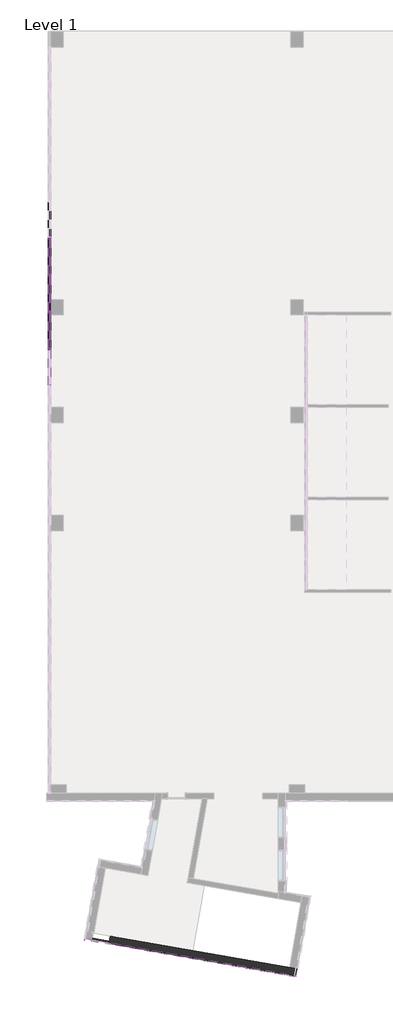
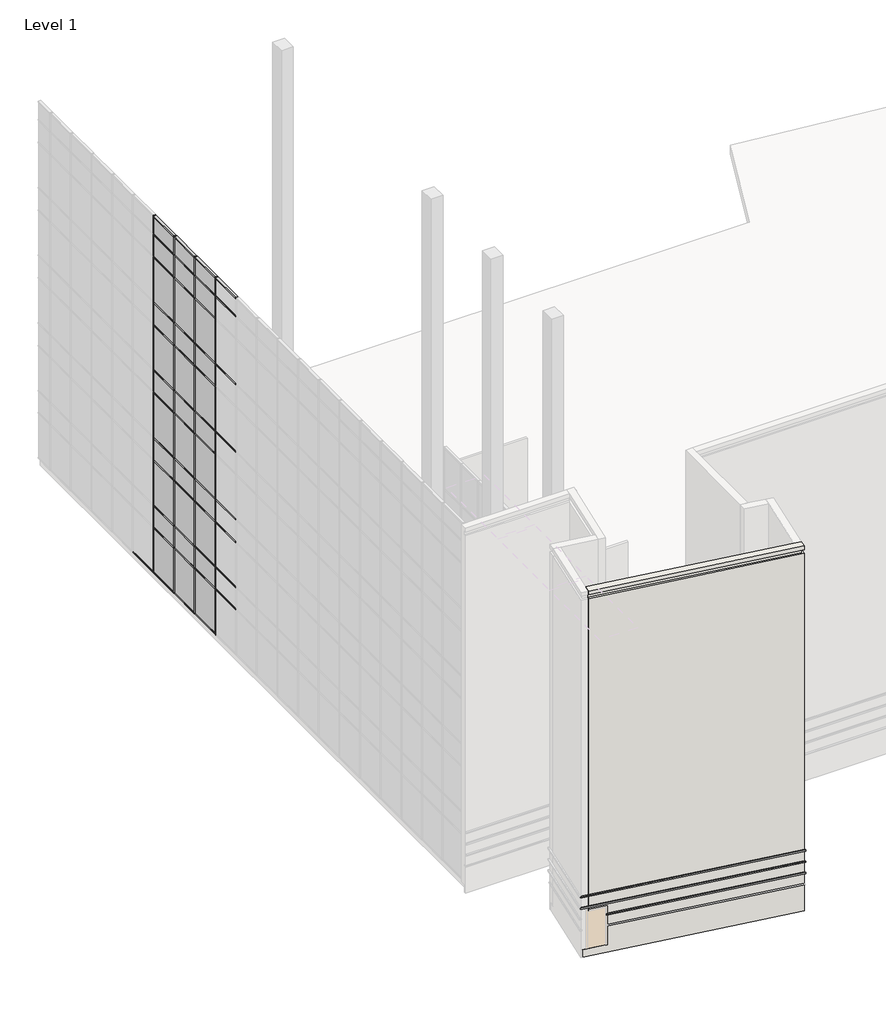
# One storey, part 4 of 23: 69 members, 33 plates, 3 proxies, 1 wall.
"""IFC4 building model written with IfcOpenShell, lengths in millimetres."""

from ifc_helpers import new_model, si_unit, frame, origin, place, context, project, spatial, polyline, outline, extrude, faceted_brep, transform, mapped, element, save
from components import member_f92b8aa2, member_810865a4, member_6d5c3e5e, member_9764dd38, system_panel_glazed_14c75400, system_panel_solid_5dfe6f83, system_panel_solid_e25e2004, system_panel_solid_b7551183

model = new_model("IFC4")

# Units and contexts
model_context = context("Model", 3, world=origin())
ifc_project = project(units=[si_unit("LENGTHUNIT", "METRE", prefix="MILLI")], contexts=[model_context])

# Site, building, storey
site = spatial("IfcSite", under=ifc_project)
building = spatial("IfcBuilding", under=site)
storey = spatial("IfcBuildingStorey", under=building, Name="Level 1", Elevation=0.0)

# Proxies
placement = place(None, origin())
element("IfcBuildingElementProxy", 1, Name="Reveals", at=placement, inside=storey, context=model_context, shape_type="SweptSolid", body=[
    extrude(outline(polyline([(-65796.5031372, -35188.4340603), (-65780.5144812, -35097.7578865), (-56600.3335692, -36716.4714691), (-56525.6460513, -36823.1362989), (-65796.5031372, -35188.4340603)])), frame((0.0, 0.0, 1625.6), z_axis=(0.0, 0.0, 1.0), x_axis=(1.0, 0.0, 0.0)), (0.0, 0.0, 1.0), 67.7333333),
])
element("IfcBuildingElementProxy", 2, Name="Reveals", at=placement, inside=storey, context=model_context, shape_type="SweptSolid", body=[
    extrude(outline(polyline([(-67022.1948666, -34972.3115384), (-66915.5300368, -34897.6240205), (-56600.3335692, -36716.4714691), (-56525.6460513, -36823.1362989), (-67022.1948666, -34972.3115384)])), frame((0.0, 0.0, 2235.2), z_axis=(0.0, 0.0, 1.0), x_axis=(1.0, 0.0, 0.0)), (0.0, 0.0, 1.0), 67.7333333),
])
element("IfcBuildingElementProxy", 3, Name="Reveals", at=placement, inside=storey, context=model_context, shape_type="SweptSolid", body=[
    extrude(outline(polyline([(-67022.1948666, -34972.3115384), (-66915.5300368, -34897.6240205), (-56600.3335692, -36716.4714691), (-56525.6460513, -36823.1362989), (-67022.1948666, -34972.3115384)])), frame((0.0, 0.0, 2844.8), z_axis=(0.0, 0.0, 1.0), x_axis=(1.0, 0.0, 0.0)), (0.0, 0.0, 1.0), 67.7333333),
])

# Members
member_shape = member_f92b8aa2(model_context)
element("IfcMember", 4, ObjectType="Rectangular Mullion : 2.5\" x 5\" rectangular", at=placement, inside=storey, context=model_context, shape_type="MappedRepresentation", body=[
    mapped(member_shape, transform((-68724.2599961, -5768.3103492, 18288.0), x_axis=(0.0, 1.0, 0.0), y_axis=(1.0, 0.0, 0.0), z_axis=(0.0, 0.0, -1.0))),
])
element("IfcMember", 5, ObjectType="Rectangular Mullion : 2.5\" x 5\" rectangular", at=placement, inside=storey, context=model_context, shape_type="MappedRepresentation", body=[
    mapped(member_shape, transform((-68724.2599961, -3939.5103492, 18288.0), x_axis=(0.0, 1.0, 0.0), y_axis=(1.0, 0.0, 0.0), z_axis=(0.0, 0.0, -1.0))),
])
element("IfcMember", 6, ObjectType="Rectangular Mullion : 2.5\" x 5\" rectangular", at=placement, inside=storey, context=model_context, shape_type="MappedRepresentation", body=[
    mapped(member_shape, transform((-68724.2599961, -2110.7103492, 18288.0), x_axis=(0.0, 1.0, 0.0), y_axis=(1.0, 0.0, 0.0), z_axis=(0.0, 0.0, -1.0))),
])
element("IfcMember", 7, ObjectType="Rectangular Mullion : 2.5\" x 5\" rectangular", at=placement, inside=storey, context=model_context, shape_type="MappedRepresentation", body=[
    mapped(member_shape, transform((-68724.2599961, -281.9103492, 18288.0), x_axis=(0.0, 1.0, 0.0), y_axis=(1.0, 0.0, 0.0), z_axis=(0.0, 0.0, -1.0))),
])
member_2_shape = member_810865a4(model_context)
element("IfcMember", 8, ObjectType="Rectangular Mullion : 2.5\" x 5\" rectangular", at=placement, inside=storey, context=model_context, shape_type="MappedRepresentation", body=[
    mapped(member_2_shape, transform((-68724.2599961, -5768.3103492, 3657.6), x_axis=(0.0, 1.0, 0.0), y_axis=(1.0, 0.0, 0.0), z_axis=(0.0, 0.0, -1.0))),
])
element("IfcMember", 9, ObjectType="Rectangular Mullion : 2.5\" x 5\" rectangular", at=placement, inside=storey, context=model_context, shape_type="MappedRepresentation", body=[
    mapped(member_2_shape, transform((-68724.2599961, -3939.5103492, 3657.6), x_axis=(0.0, 1.0, 0.0), y_axis=(1.0, 0.0, 0.0), z_axis=(0.0, 0.0, -1.0))),
])
element("IfcMember", 10, ObjectType="Rectangular Mullion : 2.5\" x 5\" rectangular", at=placement, inside=storey, context=model_context, shape_type="MappedRepresentation", body=[
    mapped(member_2_shape, transform((-68724.2599961, -2110.7103492, 3657.6), x_axis=(0.0, 1.0, 0.0), y_axis=(1.0, 0.0, 0.0), z_axis=(0.0, 0.0, -1.0))),
])
element("IfcMember", 11, ObjectType="Rectangular Mullion : 2.5\" x 5\" rectangular", at=placement, inside=storey, context=model_context, shape_type="MappedRepresentation", body=[
    mapped(member_2_shape, transform((-68724.2599961, -281.9103492, 3657.6), x_axis=(0.0, 1.0, 0.0), y_axis=(1.0, 0.0, 0.0), z_axis=(0.0, 0.0, -1.0))),
])
element("IfcMember", 12, ObjectType="Rectangular Mullion : 2.5\" x 5\" rectangular", at=placement, inside=storey, context=model_context, shape_type="MappedRepresentation", body=[
    mapped(member_2_shape, transform((-68724.2599961, -5768.3103492, 7315.2), x_axis=(0.0, 1.0, 0.0), y_axis=(1.0, 0.0, 0.0), z_axis=(0.0, 0.0, -1.0))),
])
element("IfcMember", 13, ObjectType="Rectangular Mullion : 2.5\" x 5\" rectangular", at=placement, inside=storey, context=model_context, shape_type="MappedRepresentation", body=[
    mapped(member_2_shape, transform((-68724.2599961, -3939.5103492, 7315.2), x_axis=(0.0, 1.0, 0.0), y_axis=(1.0, 0.0, 0.0), z_axis=(0.0, 0.0, -1.0))),
])
element("IfcMember", 14, ObjectType="Rectangular Mullion : 2.5\" x 5\" rectangular", at=placement, inside=storey, context=model_context, shape_type="MappedRepresentation", body=[
    mapped(member_2_shape, transform((-68724.2599961, -2110.7103492, 7315.2), x_axis=(0.0, 1.0, 0.0), y_axis=(1.0, 0.0, 0.0), z_axis=(0.0, 0.0, -1.0))),
])
element("IfcMember", 15, ObjectType="Rectangular Mullion : 2.5\" x 5\" rectangular", at=placement, inside=storey, context=model_context, shape_type="MappedRepresentation", body=[
    mapped(member_2_shape, transform((-68724.2599961, -281.9103492, 7315.2), x_axis=(0.0, 1.0, 0.0), y_axis=(1.0, 0.0, 0.0), z_axis=(0.0, 0.0, -1.0))),
])
element("IfcMember", 16, ObjectType="Rectangular Mullion : 2.5\" x 5\" rectangular", at=placement, inside=storey, context=model_context, shape_type="MappedRepresentation", body=[
    mapped(member_2_shape, transform((-68724.2599961, -5768.3103492, 10972.8), x_axis=(0.0, 1.0, 0.0), y_axis=(1.0, 0.0, 0.0), z_axis=(0.0, 0.0, -1.0))),
])
element("IfcMember", 17, ObjectType="Rectangular Mullion : 2.5\" x 5\" rectangular", at=placement, inside=storey, context=model_context, shape_type="MappedRepresentation", body=[
    mapped(member_2_shape, transform((-68724.2599961, -3939.5103492, 10972.8), x_axis=(0.0, 1.0, 0.0), y_axis=(1.0, 0.0, 0.0), z_axis=(0.0, 0.0, -1.0))),
])
element("IfcMember", 18, ObjectType="Rectangular Mullion : 2.5\" x 5\" rectangular", at=placement, inside=storey, context=model_context, shape_type="MappedRepresentation", body=[
    mapped(member_2_shape, transform((-68724.2599961, -2110.7103492, 10972.8), x_axis=(0.0, 1.0, 0.0), y_axis=(1.0, 0.0, 0.0), z_axis=(0.0, 0.0, -1.0))),
])
element("IfcMember", 19, ObjectType="Rectangular Mullion : 2.5\" x 5\" rectangular", at=placement, inside=storey, context=model_context, shape_type="MappedRepresentation", body=[
    mapped(member_2_shape, transform((-68724.2599961, -281.9103492, 10972.8), x_axis=(0.0, 1.0, 0.0), y_axis=(1.0, 0.0, 0.0), z_axis=(0.0, 0.0, -1.0))),
])
element("IfcMember", 20, ObjectType="Rectangular Mullion : 2.5\" x 5\" rectangular", at=placement, inside=storey, context=model_context, shape_type="MappedRepresentation", body=[
    mapped(member_2_shape, transform((-68724.2599961, -5768.3103492, 14630.4), x_axis=(0.0, 1.0, 0.0), y_axis=(1.0, 0.0, 0.0), z_axis=(0.0, 0.0, -1.0))),
])
element("IfcMember", 21, ObjectType="Rectangular Mullion : 2.5\" x 5\" rectangular", at=placement, inside=storey, context=model_context, shape_type="MappedRepresentation", body=[
    mapped(member_2_shape, transform((-68724.2599961, -3939.5103492, 14630.4), x_axis=(0.0, 1.0, 0.0), y_axis=(1.0, 0.0, 0.0), z_axis=(0.0, 0.0, -1.0))),
])
element("IfcMember", 22, ObjectType="Rectangular Mullion : 2.5\" x 5\" rectangular", at=placement, inside=storey, context=model_context, shape_type="MappedRepresentation", body=[
    mapped(member_2_shape, transform((-68724.2599961, -2110.7103492, 14630.4), x_axis=(0.0, 1.0, 0.0), y_axis=(1.0, 0.0, 0.0), z_axis=(0.0, 0.0, -1.0))),
])
element("IfcMember", 23, ObjectType="Rectangular Mullion : 2.5\" x 5\" rectangular", at=placement, inside=storey, context=model_context, shape_type="MappedRepresentation", body=[
    mapped(member_2_shape, transform((-68724.2599961, -281.9103492, 14630.4), x_axis=(0.0, 1.0, 0.0), y_axis=(1.0, 0.0, 0.0), z_axis=(0.0, 0.0, -1.0))),
])
member_3_shape = member_6d5c3e5e(model_context)
element("IfcMember", 24, ObjectType="Rectangular Mullion : 2.5\" x 5\" rectangular", at=placement, inside=storey, context=model_context, shape_type="MappedRepresentation", body=[
    mapped(member_3_shape, transform((-68724.2599961, -5800.0603492, 19304.0), x_axis=(0.0, 0.0, 1.0), y_axis=(1.0, 0.0, 0.0), z_axis=(0.0, 1.0, 0.0))),
])
element("IfcMember", 25, ObjectType="Rectangular Mullion : 2.5\" x 5\" rectangular", at=placement, inside=storey, context=model_context, shape_type="MappedRepresentation", body=[
    mapped(member_3_shape, transform((-68724.2599961, -3971.2603492, 19304.0), x_axis=(0.0, 0.0, 1.0), y_axis=(1.0, 0.0, 0.0), z_axis=(0.0, 1.0, 0.0))),
])
element("IfcMember", 26, ObjectType="Rectangular Mullion : 2.5\" x 5\" rectangular", at=placement, inside=storey, context=model_context, shape_type="MappedRepresentation", body=[
    mapped(member_3_shape, transform((-68724.2599961, -2142.4603492, 19304.0), x_axis=(0.0, 0.0, 1.0), y_axis=(1.0, 0.0, 0.0), z_axis=(0.0, 1.0, 0.0))),
])
element("IfcMember", 27, ObjectType="Rectangular Mullion : 2.5\" x 5\" rectangular", at=placement, inside=storey, context=model_context, shape_type="MappedRepresentation", body=[
    mapped(member_3_shape, transform((-68724.2599961, -313.6603492, 19304.0), x_axis=(0.0, 0.0, 1.0), y_axis=(1.0, 0.0, 0.0), z_axis=(0.0, 1.0, 0.0))),
])
member_4_shape = member_9764dd38(model_context)
element("IfcMember", 28, ObjectType="Rectangular Mullion : 2.5\" x 5\" rectangular", at=placement, inside=storey, context=model_context, shape_type="MappedRepresentation", body=[
    mapped(member_4_shape, transform((-68724.2599961, -313.6603492, 17068.8), x_axis=(0.0, 0.0, 1.0), y_axis=(1.0, 0.0, 0.0), z_axis=(0.0, 1.0, 0.0))),
])
element("IfcMember", 29, ObjectType="Rectangular Mullion : 2.5\" x 5\" rectangular", at=placement, inside=storey, context=model_context, shape_type="MappedRepresentation", body=[
    mapped(member_4_shape, transform((-68724.2599961, -2142.4603492, 17068.8), x_axis=(0.0, 0.0, 1.0), y_axis=(1.0, 0.0, 0.0), z_axis=(0.0, 1.0, 0.0))),
])
element("IfcMember", 30, ObjectType="Rectangular Mullion : 2.5\" x 5\" rectangular", at=placement, inside=storey, context=model_context, shape_type="MappedRepresentation", body=[
    mapped(member_4_shape, transform((-68724.2599961, -3971.2603492, 17068.8), x_axis=(0.0, 0.0, 1.0), y_axis=(1.0, 0.0, 0.0), z_axis=(0.0, 1.0, 0.0))),
])
element("IfcMember", 31, ObjectType="Rectangular Mullion : 2.5\" x 5\" rectangular", at=placement, inside=storey, context=model_context, shape_type="MappedRepresentation", body=[
    mapped(member_4_shape, transform((-68724.2599961, -313.6603492, 13411.2), x_axis=(0.0, 0.0, 1.0), y_axis=(1.0, 0.0, 0.0), z_axis=(0.0, 1.0, 0.0))),
])
element("IfcMember", 32, ObjectType="Rectangular Mullion : 2.5\" x 5\" rectangular", at=placement, inside=storey, context=model_context, shape_type="MappedRepresentation", body=[
    mapped(member_4_shape, transform((-68724.2599961, -2142.4603492, 13411.2), x_axis=(0.0, 0.0, 1.0), y_axis=(1.0, 0.0, 0.0), z_axis=(0.0, 1.0, 0.0))),
])
element("IfcMember", 33, ObjectType="Rectangular Mullion : 2.5\" x 5\" rectangular", at=placement, inside=storey, context=model_context, shape_type="MappedRepresentation", body=[
    mapped(member_4_shape, transform((-68724.2599961, -3971.2603492, 13411.2), x_axis=(0.0, 0.0, 1.0), y_axis=(1.0, 0.0, 0.0), z_axis=(0.0, 1.0, 0.0))),
])
element("IfcMember", 34, ObjectType="Rectangular Mullion : 2.5\" x 5\" rectangular", at=placement, inside=storey, context=model_context, shape_type="MappedRepresentation", body=[
    mapped(member_4_shape, transform((-68724.2599961, -313.6603492, 9753.6), x_axis=(0.0, 0.0, 1.0), y_axis=(1.0, 0.0, 0.0), z_axis=(0.0, 1.0, 0.0))),
])
element("IfcMember", 35, ObjectType="Rectangular Mullion : 2.5\" x 5\" rectangular", at=placement, inside=storey, context=model_context, shape_type="MappedRepresentation", body=[
    mapped(member_4_shape, transform((-68724.2599961, -2142.4603492, 9753.6), x_axis=(0.0, 0.0, 1.0), y_axis=(1.0, 0.0, 0.0), z_axis=(0.0, 1.0, 0.0))),
])
element("IfcMember", 36, ObjectType="Rectangular Mullion : 2.5\" x 5\" rectangular", at=placement, inside=storey, context=model_context, shape_type="MappedRepresentation", body=[
    mapped(member_4_shape, transform((-68724.2599961, -3971.2603492, 9753.6), x_axis=(0.0, 0.0, 1.0), y_axis=(1.0, 0.0, 0.0), z_axis=(0.0, 1.0, 0.0))),
])
element("IfcMember", 37, ObjectType="Rectangular Mullion : 2.5\" x 5\" rectangular", at=placement, inside=storey, context=model_context, shape_type="MappedRepresentation", body=[
    mapped(member_4_shape, transform((-68724.2599961, -313.6603492, 6096.0), x_axis=(0.0, 0.0, 1.0), y_axis=(1.0, 0.0, 0.0), z_axis=(0.0, 1.0, 0.0))),
])
element("IfcMember", 38, ObjectType="Rectangular Mullion : 2.5\" x 5\" rectangular", at=placement, inside=storey, context=model_context, shape_type="MappedRepresentation", body=[
    mapped(member_4_shape, transform((-68724.2599961, -2142.4603492, 6096.0), x_axis=(0.0, 0.0, 1.0), y_axis=(1.0, 0.0, 0.0), z_axis=(0.0, 1.0, 0.0))),
])
element("IfcMember", 39, ObjectType="Rectangular Mullion : 2.5\" x 5\" rectangular", at=placement, inside=storey, context=model_context, shape_type="MappedRepresentation", body=[
    mapped(member_4_shape, transform((-68724.2599961, -3971.2603492, 6096.0), x_axis=(0.0, 0.0, 1.0), y_axis=(1.0, 0.0, 0.0), z_axis=(0.0, 1.0, 0.0))),
])
element("IfcMember", 40, ObjectType="Rectangular Mullion : 2.5\" x 5\" rectangular", at=placement, inside=storey, context=model_context, shape_type="MappedRepresentation", body=[
    mapped(member_4_shape, transform((-68724.2599961, -5800.0603492, 6096.0), x_axis=(0.0, 0.0, 1.0), y_axis=(1.0, 0.0, 0.0), z_axis=(0.0, 1.0, 0.0))),
])
element("IfcMember", 41, ObjectType="Rectangular Mullion : 2.5\" x 5\" rectangular", at=placement, inside=storey, context=model_context, shape_type="MappedRepresentation", body=[
    mapped(member_4_shape, transform((-68724.2599961, -313.6603492, 2470.15), x_axis=(0.0, 0.0, 1.0), y_axis=(1.0, 0.0, 0.0), z_axis=(0.0, 1.0, 0.0))),
])
element("IfcMember", 42, ObjectType="Rectangular Mullion : 2.5\" x 5\" rectangular", at=placement, inside=storey, context=model_context, shape_type="MappedRepresentation", body=[
    mapped(member_4_shape, transform((-68724.2599961, -2142.4603492, 2470.15), x_axis=(0.0, 0.0, 1.0), y_axis=(1.0, 0.0, 0.0), z_axis=(0.0, 1.0, 0.0))),
])
element("IfcMember", 43, ObjectType="Rectangular Mullion : 2.5\" x 5\" rectangular", at=placement, inside=storey, context=model_context, shape_type="MappedRepresentation", body=[
    mapped(member_4_shape, transform((-68724.2599961, -3971.2603492, 2470.15), x_axis=(0.0, 0.0, 1.0), y_axis=(1.0, 0.0, 0.0), z_axis=(0.0, 1.0, 0.0))),
])
element("IfcMember", 44, ObjectType="Rectangular Mullion : 2.5\" x 5\" rectangular", at=placement, inside=storey, context=model_context, shape_type="MappedRepresentation", body=[
    mapped(member_4_shape, transform((-68724.2599961, -5800.0603492, 2470.15), x_axis=(0.0, 0.0, 1.0), y_axis=(1.0, 0.0, 0.0), z_axis=(0.0, 1.0, 0.0))),
])
element("IfcMember", 45, ObjectType="Rectangular Mullion : 2.5\" x 5\" rectangular", at=placement, inside=storey, context=model_context, shape_type="MappedRepresentation", body=[
    mapped(member_2_shape, transform((-68724.2599961, -5768.3103492, 0.0), x_axis=(0.0, 1.0, 0.0), y_axis=(1.0, 0.0, 0.0), z_axis=(0.0, 0.0, -1.0))),
])
element("IfcMember", 46, ObjectType="Rectangular Mullion : 2.5\" x 5\" rectangular", at=placement, inside=storey, context=model_context, shape_type="MappedRepresentation", body=[
    mapped(member_2_shape, transform((-68724.2599961, -3939.5103492, 0.0), x_axis=(0.0, 1.0, 0.0), y_axis=(1.0, 0.0, 0.0), z_axis=(0.0, 0.0, -1.0))),
])
element("IfcMember", 47, ObjectType="Rectangular Mullion : 2.5\" x 5\" rectangular", at=placement, inside=storey, context=model_context, shape_type="MappedRepresentation", body=[
    mapped(member_2_shape, transform((-68724.2599961, -2110.7103492, 0.0), x_axis=(0.0, 1.0, 0.0), y_axis=(1.0, 0.0, 0.0), z_axis=(0.0, 0.0, -1.0))),
])
element("IfcMember", 48, ObjectType="Rectangular Mullion : 2.5\" x 5\" rectangular", at=placement, inside=storey, context=model_context, shape_type="MappedRepresentation", body=[
    mapped(member_2_shape, transform((-68724.2599961, -281.9103492, 0.0), x_axis=(0.0, 1.0, 0.0), y_axis=(1.0, 0.0, 0.0), z_axis=(0.0, 0.0, -1.0))),
])
element("IfcMember", 49, ObjectType="Rectangular Mullion : 2.5\" x 5\" rectangular", at=placement, inside=storey, context=model_context, shape_type="MappedRepresentation", body=[
    mapped(member_3_shape, transform((-68724.2599961, -5736.5603492, 0.0), x_axis=(0.0, 0.0, -1.0), y_axis=(1.0, 0.0, 0.0), z_axis=(0.0, -1.0, 0.0))),
])
element("IfcMember", 50, ObjectType="Rectangular Mullion : 2.5\" x 5\" rectangular", at=placement, inside=storey, context=model_context, shape_type="MappedRepresentation", body=[
    mapped(member_3_shape, transform((-68724.2599961, -3907.7603492, 0.0), x_axis=(0.0, 0.0, -1.0), y_axis=(1.0, 0.0, 0.0), z_axis=(0.0, -1.0, 0.0))),
])
element("IfcMember", 51, ObjectType="Rectangular Mullion : 2.5\" x 5\" rectangular", at=placement, inside=storey, context=model_context, shape_type="MappedRepresentation", body=[
    mapped(member_3_shape, transform((-68724.2599961, -2078.9603492, 0.0), x_axis=(0.0, 0.0, -1.0), y_axis=(1.0, 0.0, 0.0), z_axis=(0.0, -1.0, 0.0))),
])
element("IfcMember", 52, ObjectType="Rectangular Mullion : 2.5\" x 5\" rectangular", at=placement, inside=storey, context=model_context, shape_type="MappedRepresentation", body=[
    mapped(member_3_shape, transform((-68724.2599961, -250.1603492, 0.0), x_axis=(0.0, 0.0, -1.0), y_axis=(1.0, 0.0, 0.0), z_axis=(0.0, -1.0, 0.0))),
])
element("IfcMember", 53, ObjectType="Rectangular Mullion : 2.5\" x 5\" rectangular", at=placement, inside=storey, context=model_context, shape_type="MappedRepresentation", body=[
    mapped(member_4_shape, transform((-68724.2599961, -5800.0603492, 3657.6), x_axis=(0.0, 0.0, 1.0), y_axis=(1.0, 0.0, 0.0), z_axis=(0.0, 1.0, 0.0))),
])
element("IfcMember", 54, ObjectType="Rectangular Mullion : 2.5\" x 5\" rectangular", at=placement, inside=storey, context=model_context, shape_type="MappedRepresentation", body=[
    mapped(member_4_shape, transform((-68724.2599961, -3971.2603492, 3657.6), x_axis=(0.0, 0.0, 1.0), y_axis=(1.0, 0.0, 0.0), z_axis=(0.0, 1.0, 0.0))),
])
element("IfcMember", 55, ObjectType="Rectangular Mullion : 2.5\" x 5\" rectangular", at=placement, inside=storey, context=model_context, shape_type="MappedRepresentation", body=[
    mapped(member_4_shape, transform((-68724.2599961, -2142.4603492, 3657.6), x_axis=(0.0, 0.0, 1.0), y_axis=(1.0, 0.0, 0.0), z_axis=(0.0, 1.0, 0.0))),
])
element("IfcMember", 56, ObjectType="Rectangular Mullion : 2.5\" x 5\" rectangular", at=placement, inside=storey, context=model_context, shape_type="MappedRepresentation", body=[
    mapped(member_4_shape, transform((-68724.2599961, -313.6603492, 3657.6), x_axis=(0.0, 0.0, 1.0), y_axis=(1.0, 0.0, 0.0), z_axis=(0.0, 1.0, 0.0))),
])
element("IfcMember", 57, ObjectType="Rectangular Mullion : 2.5\" x 5\" rectangular", at=placement, inside=storey, context=model_context, shape_type="MappedRepresentation", body=[
    mapped(member_4_shape, transform((-68724.2599961, -5800.0603492, 7315.2), x_axis=(0.0, 0.0, 1.0), y_axis=(1.0, 0.0, 0.0), z_axis=(0.0, 1.0, 0.0))),
])
element("IfcMember", 58, ObjectType="Rectangular Mullion : 2.5\" x 5\" rectangular", at=placement, inside=storey, context=model_context, shape_type="MappedRepresentation", body=[
    mapped(member_4_shape, transform((-68724.2599961, -3971.2603492, 7315.2), x_axis=(0.0, 0.0, 1.0), y_axis=(1.0, 0.0, 0.0), z_axis=(0.0, 1.0, 0.0))),
])
element("IfcMember", 59, ObjectType="Rectangular Mullion : 2.5\" x 5\" rectangular", at=placement, inside=storey, context=model_context, shape_type="MappedRepresentation", body=[
    mapped(member_4_shape, transform((-68724.2599961, -2142.4603492, 7315.2), x_axis=(0.0, 0.0, 1.0), y_axis=(1.0, 0.0, 0.0), z_axis=(0.0, 1.0, 0.0))),
])
element("IfcMember", 60, ObjectType="Rectangular Mullion : 2.5\" x 5\" rectangular", at=placement, inside=storey, context=model_context, shape_type="MappedRepresentation", body=[
    mapped(member_4_shape, transform((-68724.2599961, -313.6603492, 7315.2), x_axis=(0.0, 0.0, 1.0), y_axis=(1.0, 0.0, 0.0), z_axis=(0.0, 1.0, 0.0))),
])
element("IfcMember", 61, ObjectType="Rectangular Mullion : 2.5\" x 5\" rectangular", at=placement, inside=storey, context=model_context, shape_type="MappedRepresentation", body=[
    mapped(member_4_shape, transform((-68724.2599961, -5800.0603492, 10972.8), x_axis=(0.0, 0.0, 1.0), y_axis=(1.0, 0.0, 0.0), z_axis=(0.0, 1.0, 0.0))),
])
element("IfcMember", 62, ObjectType="Rectangular Mullion : 2.5\" x 5\" rectangular", at=placement, inside=storey, context=model_context, shape_type="MappedRepresentation", body=[
    mapped(member_4_shape, transform((-68724.2599961, -3971.2603492, 10972.8), x_axis=(0.0, 0.0, 1.0), y_axis=(1.0, 0.0, 0.0), z_axis=(0.0, 1.0, 0.0))),
])
element("IfcMember", 63, ObjectType="Rectangular Mullion : 2.5\" x 5\" rectangular", at=placement, inside=storey, context=model_context, shape_type="MappedRepresentation", body=[
    mapped(member_4_shape, transform((-68724.2599961, -2142.4603492, 10972.8), x_axis=(0.0, 0.0, 1.0), y_axis=(1.0, 0.0, 0.0), z_axis=(0.0, 1.0, 0.0))),
])
element("IfcMember", 64, ObjectType="Rectangular Mullion : 2.5\" x 5\" rectangular", at=placement, inside=storey, context=model_context, shape_type="MappedRepresentation", body=[
    mapped(member_4_shape, transform((-68724.2599961, -313.6603492, 10972.8), x_axis=(0.0, 0.0, 1.0), y_axis=(1.0, 0.0, 0.0), z_axis=(0.0, 1.0, 0.0))),
])
element("IfcMember", 65, ObjectType="Rectangular Mullion : 2.5\" x 5\" rectangular", at=placement, inside=storey, context=model_context, shape_type="MappedRepresentation", body=[
    mapped(member_4_shape, transform((-68724.2599961, -5800.0603492, 14630.4), x_axis=(0.0, 0.0, 1.0), y_axis=(1.0, 0.0, 0.0), z_axis=(0.0, 1.0, 0.0))),
])
element("IfcMember", 66, ObjectType="Rectangular Mullion : 2.5\" x 5\" rectangular", at=placement, inside=storey, context=model_context, shape_type="MappedRepresentation", body=[
    mapped(member_4_shape, transform((-68724.2599961, -3971.2603492, 14630.4), x_axis=(0.0, 0.0, 1.0), y_axis=(1.0, 0.0, 0.0), z_axis=(0.0, 1.0, 0.0))),
])
element("IfcMember", 67, ObjectType="Rectangular Mullion : 2.5\" x 5\" rectangular", at=placement, inside=storey, context=model_context, shape_type="MappedRepresentation", body=[
    mapped(member_4_shape, transform((-68724.2599961, -2142.4603492, 14630.4), x_axis=(0.0, 0.0, 1.0), y_axis=(1.0, 0.0, 0.0), z_axis=(0.0, 1.0, 0.0))),
])
element("IfcMember", 68, ObjectType="Rectangular Mullion : 2.5\" x 5\" rectangular", at=placement, inside=storey, context=model_context, shape_type="MappedRepresentation", body=[
    mapped(member_4_shape, transform((-68724.2599961, -313.6603492, 14630.4), x_axis=(0.0, 0.0, 1.0), y_axis=(1.0, 0.0, 0.0), z_axis=(0.0, 1.0, 0.0))),
])
element("IfcMember", 69, ObjectType="Rectangular Mullion : 2.5\" x 5\" rectangular", at=placement, inside=storey, context=model_context, shape_type="MappedRepresentation", body=[
    mapped(member_4_shape, transform((-68724.2599961, -5800.0603492, 18288.0), x_axis=(0.0, 0.0, 1.0), y_axis=(1.0, 0.0, 0.0), z_axis=(0.0, 1.0, 0.0))),
])
element("IfcMember", 70, ObjectType="Rectangular Mullion : 2.5\" x 5\" rectangular", at=placement, inside=storey, context=model_context, shape_type="MappedRepresentation", body=[
    mapped(member_4_shape, transform((-68724.2599961, -3971.2603492, 18288.0), x_axis=(0.0, 0.0, 1.0), y_axis=(1.0, 0.0, 0.0), z_axis=(0.0, 1.0, 0.0))),
])
element("IfcMember", 71, ObjectType="Rectangular Mullion : 2.5\" x 5\" rectangular", at=placement, inside=storey, context=model_context, shape_type="MappedRepresentation", body=[
    mapped(member_4_shape, transform((-68724.2599961, -2142.4603492, 18288.0), x_axis=(0.0, 0.0, 1.0), y_axis=(1.0, 0.0, 0.0), z_axis=(0.0, 1.0, 0.0))),
])
element("IfcMember", 72, ObjectType="Rectangular Mullion : 2.5\" x 5\" rectangular", at=placement, inside=storey, context=model_context, shape_type="MappedRepresentation", body=[
    mapped(member_4_shape, transform((-68724.2599961, -313.6603492, 18288.0), x_axis=(0.0, 0.0, 1.0), y_axis=(1.0, 0.0, 0.0), z_axis=(0.0, 1.0, 0.0))),
])

# Plates
system_panel_glazed_shape = system_panel_glazed_14c75400(model_context)
element("IfcPlate", 73, ObjectType="System Panel : Glazed", at=placement, inside=storey, context=model_context, shape_type="MappedRepresentation", body=[
    mapped(system_panel_glazed_shape, transform((-68724.2599961, -1196.3103492, 14662.15), x_axis=(0.0, 1.0, 0.0), y_axis=(-1.0, 0.0, 0.0), z_axis=(0.0, 0.0, 1.0))),
])
element("IfcPlate", 74, ObjectType="System Panel : Glazed", at=placement, inside=storey, context=model_context, shape_type="MappedRepresentation", body=[
    mapped(system_panel_glazed_shape, transform((-68724.2599961, -3025.1103492, 14662.15), x_axis=(0.0, 1.0, 0.0), y_axis=(-1.0, 0.0, 0.0), z_axis=(0.0, 0.0, 1.0))),
])
element("IfcPlate", 75, ObjectType="System Panel : Glazed", at=placement, inside=storey, context=model_context, shape_type="MappedRepresentation", body=[
    mapped(system_panel_glazed_shape, transform((-68724.2599961, -4853.9103492, 14662.15), x_axis=(0.0, 1.0, 0.0), y_axis=(-1.0, 0.0, 0.0), z_axis=(0.0, 0.0, 1.0))),
])
element("IfcPlate", 76, ObjectType="System Panel : Glazed", at=placement, inside=storey, context=model_context, shape_type="MappedRepresentation", body=[
    mapped(system_panel_glazed_shape, transform((-68724.2599961, -1196.3103492, 11004.55), x_axis=(0.0, 1.0, 0.0), y_axis=(-1.0, 0.0, 0.0), z_axis=(0.0, 0.0, 1.0))),
])
element("IfcPlate", 77, ObjectType="System Panel : Glazed", at=placement, inside=storey, context=model_context, shape_type="MappedRepresentation", body=[
    mapped(system_panel_glazed_shape, transform((-68724.2599961, -3025.1103492, 11004.55), x_axis=(0.0, 1.0, 0.0), y_axis=(-1.0, 0.0, 0.0), z_axis=(0.0, 0.0, 1.0))),
])
element("IfcPlate", 78, ObjectType="System Panel : Glazed", at=placement, inside=storey, context=model_context, shape_type="MappedRepresentation", body=[
    mapped(system_panel_glazed_shape, transform((-68724.2599961, -4853.9103492, 11004.55), x_axis=(0.0, 1.0, 0.0), y_axis=(-1.0, 0.0, 0.0), z_axis=(0.0, 0.0, 1.0))),
])
element("IfcPlate", 79, ObjectType="System Panel : Glazed", at=placement, inside=storey, context=model_context, shape_type="MappedRepresentation", body=[
    mapped(system_panel_glazed_shape, transform((-68724.2599961, -1196.3103492, 7346.95), x_axis=(0.0, 1.0, 0.0), y_axis=(-1.0, 0.0, 0.0), z_axis=(0.0, 0.0, 1.0))),
])
element("IfcPlate", 80, ObjectType="System Panel : Glazed", at=placement, inside=storey, context=model_context, shape_type="MappedRepresentation", body=[
    mapped(system_panel_glazed_shape, transform((-68724.2599961, -3025.1103492, 7346.95), x_axis=(0.0, 1.0, 0.0), y_axis=(-1.0, 0.0, 0.0), z_axis=(0.0, 0.0, 1.0))),
])
element("IfcPlate", 81, ObjectType="System Panel : Glazed", at=placement, inside=storey, context=model_context, shape_type="MappedRepresentation", body=[
    mapped(system_panel_glazed_shape, transform((-68724.2599961, -4853.9103492, 7346.95), x_axis=(0.0, 1.0, 0.0), y_axis=(-1.0, 0.0, 0.0), z_axis=(0.0, 0.0, 1.0))),
])
element("IfcPlate", 82, ObjectType="System Panel : Glazed", at=placement, inside=storey, context=model_context, shape_type="MappedRepresentation", body=[
    mapped(system_panel_glazed_shape, transform((-68724.2599961, -1196.3103492, 3689.35), x_axis=(0.0, 1.0, 0.0), y_axis=(-1.0, 0.0, 0.0), z_axis=(0.0, 0.0, 1.0))),
])
element("IfcPlate", 83, ObjectType="System Panel : Glazed", at=placement, inside=storey, context=model_context, shape_type="MappedRepresentation", body=[
    mapped(system_panel_glazed_shape, transform((-68724.2599961, -3025.1103492, 3689.35), x_axis=(0.0, 1.0, 0.0), y_axis=(-1.0, 0.0, 0.0), z_axis=(0.0, 0.0, 1.0))),
])
element("IfcPlate", 84, ObjectType="System Panel : Glazed", at=placement, inside=storey, context=model_context, shape_type="MappedRepresentation", body=[
    mapped(system_panel_glazed_shape, transform((-68724.2599961, -4853.9103492, 3689.35), x_axis=(0.0, 1.0, 0.0), y_axis=(-1.0, 0.0, 0.0), z_axis=(0.0, 0.0, 1.0))),
])
element("IfcPlate", 85, ObjectType="System Panel : Glazed", at=placement, inside=storey, context=model_context, shape_type="MappedRepresentation", body=[
    mapped(system_panel_glazed_shape, transform((-68724.2599961, -1196.3103492, 63.5), x_axis=(0.0, 1.0, 0.0), y_axis=(-1.0, 0.0, 0.0), z_axis=(0.0, 0.0, 1.0))),
])
element("IfcPlate", 86, ObjectType="System Panel : Glazed", at=placement, inside=storey, context=model_context, shape_type="MappedRepresentation", body=[
    mapped(system_panel_glazed_shape, transform((-68724.2599961, -3025.1103492, 63.5), x_axis=(0.0, 1.0, 0.0), y_axis=(-1.0, 0.0, 0.0), z_axis=(0.0, 0.0, 1.0))),
])
element("IfcPlate", 87, ObjectType="System Panel : Glazed", at=placement, inside=storey, context=model_context, shape_type="MappedRepresentation", body=[
    mapped(system_panel_glazed_shape, transform((-68724.2599961, -4853.9103492, 63.5), x_axis=(0.0, 1.0, 0.0), y_axis=(-1.0, 0.0, 0.0), z_axis=(0.0, 0.0, 1.0))),
])
system_panel_solid_shape = system_panel_solid_5dfe6f83(model_context)
element("IfcPlate", 88, ObjectType="System Panel : Solid", at=placement, inside=storey, context=model_context, shape_type="MappedRepresentation", body=[
    mapped(system_panel_solid_shape, transform((-68724.2599961, -4853.9103492, 18319.75), x_axis=(0.0, 1.0, 0.0), y_axis=(-1.0, 0.0, 0.0), z_axis=(0.0, 0.0, 1.0))),
])
element("IfcPlate", 89, ObjectType="System Panel : Solid", at=placement, inside=storey, context=model_context, shape_type="MappedRepresentation", body=[
    mapped(system_panel_solid_shape, transform((-68724.2599961, -3025.1103492, 18319.75), x_axis=(0.0, 1.0, 0.0), y_axis=(-1.0, 0.0, 0.0), z_axis=(0.0, 0.0, 1.0))),
])
element("IfcPlate", 90, ObjectType="System Panel : Solid", at=placement, inside=storey, context=model_context, shape_type="MappedRepresentation", body=[
    mapped(system_panel_solid_shape, transform((-68724.2599961, -1196.3103492, 18319.75), x_axis=(0.0, 1.0, 0.0), y_axis=(-1.0, 0.0, 0.0), z_axis=(0.0, 0.0, 1.0))),
])
system_panel_solid_2_shape = system_panel_solid_e25e2004(model_context)
element("IfcPlate", 91, ObjectType="System Panel : Solid", at=placement, inside=storey, context=model_context, shape_type="MappedRepresentation", body=[
    mapped(system_panel_solid_2_shape, transform((-68724.2599961, -1196.3103492, 17100.55), x_axis=(0.0, 1.0, 0.0), y_axis=(-1.0, 0.0, 0.0), z_axis=(0.0, 0.0, 1.0))),
])
element("IfcPlate", 92, ObjectType="System Panel : Solid", at=placement, inside=storey, context=model_context, shape_type="MappedRepresentation", body=[
    mapped(system_panel_solid_2_shape, transform((-68724.2599961, -3025.1103492, 17100.55), x_axis=(0.0, 1.0, 0.0), y_axis=(-1.0, 0.0, 0.0), z_axis=(0.0, 0.0, 1.0))),
])
element("IfcPlate", 93, ObjectType="System Panel : Solid", at=placement, inside=storey, context=model_context, shape_type="MappedRepresentation", body=[
    mapped(system_panel_solid_2_shape, transform((-68724.2599961, -4853.9103492, 17100.55), x_axis=(0.0, 1.0, 0.0), y_axis=(-1.0, 0.0, 0.0), z_axis=(0.0, 0.0, 1.0))),
])
element("IfcPlate", 94, ObjectType="System Panel : Solid", at=placement, inside=storey, context=model_context, shape_type="MappedRepresentation", body=[
    mapped(system_panel_solid_2_shape, transform((-68724.2599961, -1196.3103492, 13442.95), x_axis=(0.0, 1.0, 0.0), y_axis=(-1.0, 0.0, 0.0), z_axis=(0.0, 0.0, 1.0))),
])
element("IfcPlate", 95, ObjectType="System Panel : Solid", at=placement, inside=storey, context=model_context, shape_type="MappedRepresentation", body=[
    mapped(system_panel_solid_2_shape, transform((-68724.2599961, -3025.1103492, 13442.95), x_axis=(0.0, 1.0, 0.0), y_axis=(-1.0, 0.0, 0.0), z_axis=(0.0, 0.0, 1.0))),
])
element("IfcPlate", 96, ObjectType="System Panel : Solid", at=placement, inside=storey, context=model_context, shape_type="MappedRepresentation", body=[
    mapped(system_panel_solid_2_shape, transform((-68724.2599961, -4853.9103492, 13442.95), x_axis=(0.0, 1.0, 0.0), y_axis=(-1.0, 0.0, 0.0), z_axis=(0.0, 0.0, 1.0))),
])
element("IfcPlate", 97, ObjectType="System Panel : Solid", at=placement, inside=storey, context=model_context, shape_type="MappedRepresentation", body=[
    mapped(system_panel_solid_2_shape, transform((-68724.2599961, -1196.3103492, 9785.35), x_axis=(0.0, 1.0, 0.0), y_axis=(-1.0, 0.0, 0.0), z_axis=(0.0, 0.0, 1.0))),
])
element("IfcPlate", 98, ObjectType="System Panel : Solid", at=placement, inside=storey, context=model_context, shape_type="MappedRepresentation", body=[
    mapped(system_panel_solid_2_shape, transform((-68724.2599961, -3025.1103492, 9785.35), x_axis=(0.0, 1.0, 0.0), y_axis=(-1.0, 0.0, 0.0), z_axis=(0.0, 0.0, 1.0))),
])
element("IfcPlate", 99, ObjectType="System Panel : Solid", at=placement, inside=storey, context=model_context, shape_type="MappedRepresentation", body=[
    mapped(system_panel_solid_2_shape, transform((-68724.2599961, -4853.9103492, 9785.35), x_axis=(0.0, 1.0, 0.0), y_axis=(-1.0, 0.0, 0.0), z_axis=(0.0, 0.0, 1.0))),
])
element("IfcPlate", 100, ObjectType="System Panel : Solid", at=placement, inside=storey, context=model_context, shape_type="MappedRepresentation", body=[
    mapped(system_panel_solid_2_shape, transform((-68724.2599961, -1196.3103492, 6127.75), x_axis=(0.0, 1.0, 0.0), y_axis=(-1.0, 0.0, 0.0), z_axis=(0.0, 0.0, 1.0))),
])
element("IfcPlate", 101, ObjectType="System Panel : Solid", at=placement, inside=storey, context=model_context, shape_type="MappedRepresentation", body=[
    mapped(system_panel_solid_2_shape, transform((-68724.2599961, -3025.1103492, 6127.75), x_axis=(0.0, 1.0, 0.0), y_axis=(-1.0, 0.0, 0.0), z_axis=(0.0, 0.0, 1.0))),
])
element("IfcPlate", 102, ObjectType="System Panel : Solid", at=placement, inside=storey, context=model_context, shape_type="MappedRepresentation", body=[
    mapped(system_panel_solid_2_shape, transform((-68724.2599961, -4853.9103492, 6127.75), x_axis=(0.0, 1.0, 0.0), y_axis=(-1.0, 0.0, 0.0), z_axis=(0.0, 0.0, 1.0))),
])
system_panel_solid_3_shape = system_panel_solid_b7551183(model_context)
element("IfcPlate", 103, ObjectType="System Panel : Solid", at=placement, inside=storey, context=model_context, shape_type="MappedRepresentation", body=[
    mapped(system_panel_solid_3_shape, transform((-68724.2599961, -1196.3103492, 2501.9), x_axis=(0.0, 1.0, 0.0), y_axis=(-1.0, 0.0, 0.0), z_axis=(0.0, 0.0, 1.0))),
])
element("IfcPlate", 104, ObjectType="System Panel : Solid", at=placement, inside=storey, context=model_context, shape_type="MappedRepresentation", body=[
    mapped(system_panel_solid_3_shape, transform((-68724.2599961, -3025.1103492, 2501.9), x_axis=(0.0, 1.0, 0.0), y_axis=(-1.0, 0.0, 0.0), z_axis=(0.0, 0.0, 1.0))),
])
element("IfcPlate", 105, ObjectType="System Panel : Solid", at=placement, inside=storey, context=model_context, shape_type="MappedRepresentation", body=[
    mapped(system_panel_solid_3_shape, transform((-68724.2599961, -4853.9103492, 2501.9), x_axis=(0.0, 1.0, 0.0), y_axis=(-1.0, 0.0, 0.0), z_axis=(0.0, 0.0, 1.0))),
])

# Wall
element("IfcWall", 106, ObjectType="Exterior - Brick and CMU on MTL. Stud", at=placement, inside=storey, context=model_context, shape_type="Brep", body=[
    faceted_brep([(-56579.730116, -36745.8962497, 19304.0), (-66597.8839451, -34979.4254327, 19304.0), (-66597.8839451, -34979.4254327, 19100.8), (-56579.730116, -36745.8962497, 19100.8), (-66597.8839451, -34979.4254327, 2032.0), (-65784.925145, -35122.7720034, 2032.0), (-65784.925145, -35122.7720034, 1693.3333333), (-56579.730116, -36745.8962497, 1693.3333333), (-56579.730116, -36745.8962497, 2235.2), (-66597.8839451, -34979.4254327, 2235.2), (-56579.730116, -36745.8962497, 1625.6), (-65784.925145, -35122.7720034, 1625.6), (-65784.925145, -35122.7720034, 1085.85), (-56579.730116, -36745.8962497, 1085.85), (-56579.730116, -36745.8962497, 1016.0), (-65784.925145, -35122.7720034, 1016.0), (-65784.925145, -35122.7720034, 0.0), (-66635.4051205, -34972.8094372, 0.0), (-66854.2786436, -34934.2161297, 0.0), (-66854.2786436, -34934.2161297, -406.4), (-56579.730116, -36745.8962497, -406.4), (-66597.8839451, -34979.4254327, 2302.9333333), (-56579.730116, -36745.8962497, 2302.9333333), (-56579.730116, -36745.8962497, 2844.8), (-66597.8839451, -34979.4254327, 2844.8), (-66597.8839451, -34979.4254327, 2912.5333333), (-56579.730116, -36745.8962497, 2912.5333333), (-56579.730116, -36745.8962497, 18897.6), (-66597.8839451, -34979.4254327, 18897.6), (-66536.6859861, -34632.3545604, 19304.0), (-56865.6030293, -36337.6274183, 19304.0), (-56518.532157, -36398.8253773, 19304.0), (-56518.532157, -36398.8253773, 19100.8), (-56609.2083309, -36382.8367214, 19100.8), (-56609.2083309, -36382.8367214, 18897.6), (-56518.532157, -36398.8253773, 18897.6), (-56518.532157, -36398.8253773, 2912.5333333), (-56543.5462739, -36394.4147136, 2912.5333333), (-56543.5462739, -36394.4147136, 2844.8), (-56518.532157, -36398.8253773, 2844.8), (-56518.532157, -36398.8253773, 2302.9333333), (-56543.5462739, -36394.4147136, 2302.9333333), (-56543.5462739, -36394.4147136, 2235.2), (-56518.532157, -36398.8253773, 2235.2), (-56518.532157, -36398.8253773, 1693.3333333), (-56543.5462739, -36394.4147136, 1693.3333333), (-56543.5462739, -36394.4147136, 1625.6), (-56518.532157, -36398.8253773, 1625.6), (-56518.532157, -36398.8253773, 1085.85), (-56609.2083309, -36382.8367214, 1085.85), (-56609.2083309, -36382.8367214, 1016.0), (-56518.532157, -36398.8253773, 1016.0), (-56518.532157, -36398.8253773, 0.0), (-56865.6030293, -36337.6274183, 0.0), (-65723.7271859, -34775.701131, 0.0), (-65723.7271859, -34775.701131, 2032.0), (-66536.6859861, -34632.3545604, 2032.0), (-66593.4732814, -34954.4113158, 2235.2), (-66593.4732814, -34954.4113158, 2302.9333333), (-66593.4732814, -34954.4113158, 2844.8), (-66593.4732814, -34954.4113158, 2912.5333333), (-66581.8952891, -34888.7492589, 18897.6), (-66581.8952891, -34888.7492589, 19100.8), (-56563.74146, -36655.2200758, 0.0), (-56563.74146, -36655.2200758, -406.4), (-56654.4176339, -36639.2314199, 0.0), (-65768.936489, -35032.0958295, 0.0), (-65768.936489, -35032.0958295, 1016.0), (-65768.936489, -35032.0958295, 1085.85), (-65780.5144812, -35097.7578865, 1625.6), (-65780.5144812, -35097.7578865, 1693.3333333), (-56600.3335692, -36716.4714691, 1693.3333333), (-56600.3335692, -36716.4714691, 1625.6), (-56600.3335692, -36716.4714691, 2302.9333333), (-56600.3335692, -36716.4714691, 2235.2), (-56600.3335692, -36716.4714691, 2912.5333333), (-56600.3335692, -36716.4714691, 2844.8), (-56654.4176339, -36639.2314199, 1085.85), (-56654.4176339, -36639.2314199, 1016.0), (-56654.4176339, -36639.2314199, 18897.6), (-56654.4176339, -36639.2314199, 19100.8), (-56654.4176339, -36639.2314199, -406.4), (-66838.2899876, -34843.5399558, -406.4), (-66838.2899876, -34843.5399558, 0.0)], [[[0, 1, 2, 3]], [[4, 5, 6, 7, 8, 9]], [[10, 11, 12, 13]], [[14, 15, 16, 17, 18, 19, 20]], [[21, 22, 23, 24]], [[25, 26, 27, 28]], [[29, 30, 31, 32, 33, 34, 35, 36, 37, 38, 39, 40, 41, 42, 43, 44, 45, 46, 47, 48, 49, 50, 51, 52, 53, 54, 55, 56]], [[1, 0, 31, 30, 29]], [[1, 29, 56, 4, 9, 57, 58, 21, 24, 59, 60, 25, 28, 61, 62, 2]], [[31, 0, 3, 32]], [[7, 44, 43, 8]], [[47, 10, 13, 48]], [[22, 40, 39, 23]], [[26, 36, 35, 27]], [[63, 52, 51, 14, 20, 64]], [[54, 53, 52, 63, 65, 66]], [[55, 5, 4, 56]], [[5, 55, 54, 66, 16, 15, 67, 68, 12, 11, 69, 70, 6]], [[45, 44, 7, 6, 70, 71]], [[47, 46, 72, 69, 11, 10]], [[70, 69, 72, 71]], [[41, 40, 22, 21, 58, 73]], [[43, 42, 74, 57, 9, 8]], [[74, 73, 58, 57]], [[73, 74, 42, 41]], [[37, 36, 26, 25, 60, 75]], [[39, 38, 76, 59, 24, 23]], [[76, 75, 60, 59]], [[75, 76, 38, 37]], [[49, 48, 13, 12, 68, 77]], [[51, 50, 78, 67, 15, 14]], [[68, 67, 78, 77]], [[34, 79, 61, 28, 27, 35]], [[62, 80, 33, 32, 3, 2]], [[79, 80, 62, 61]], [[80, 79, 34, 33]], [[63, 64, 81, 82, 83, 66, 65]], [[64, 20, 19, 82, 81]], [[71, 72, 46, 45]], [[77, 78, 50, 49]], [[83, 18, 17, 16, 66]], [[82, 19, 18, 83]]]),
])

save(model, "model.ifc")
